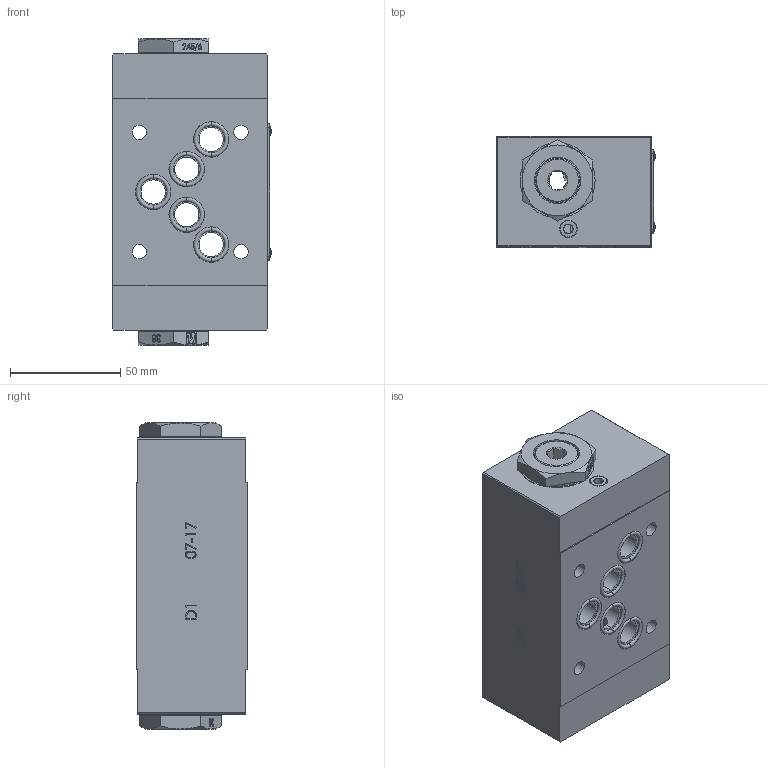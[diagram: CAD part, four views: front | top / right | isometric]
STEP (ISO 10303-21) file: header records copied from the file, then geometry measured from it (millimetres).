
FILE_DESCRIPTION (( 'STEP AP214' ), '1' );
FILE_NAME ('357-6-AB-05.STEP', '2019-12-04T07:50:53', ( '' ), ( '' ), 'SwSTEP 2.0', 'SolidWorks 2018', '' );
FILE_SCHEMA (( 'AUTOMOTIVE_DESIGN' ));
Length unit declared in the file: millimetre
Products named in the file (1): 357-6-AB-05
Bounding box: 71.66 x 50.58 x 138.6 mm (x, y, z)
Surface area: 56127.3 mm2 (no closed solid volume)
Topology: 0 solids, 59 shells, 799 faces, 3979 edges, 3127 vertices
Faces by surface type: plane 480, bspline 130, cylinder 115, cone 46, torus 20, sphere 8
Entity records: 64362 total; most frequent: CARTESIAN_POINT 26968, ORIENTED_EDGE 5328, DIRECTION 4739, EDGE_CURVE 3977, VERTEX_POINT 3127, VECTOR 2641, LINE 2641, AXIS2_PLACEMENT_3D 1049
